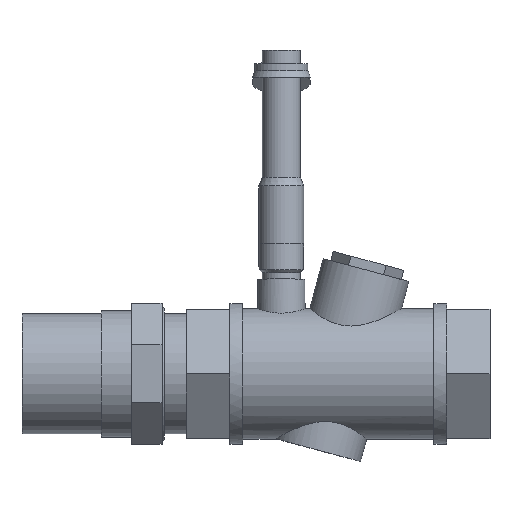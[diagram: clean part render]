
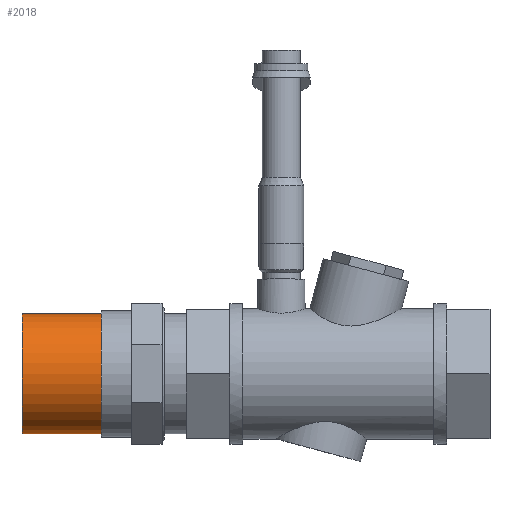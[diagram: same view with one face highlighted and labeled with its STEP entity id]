
A CAD part, top view. The second image highlights one B-rep face of the part: STEP entity #2018.
In plain terms, the highlighted cylindrical face has radius 24.13 mm (diameter 48.26 mm), a full revolution.
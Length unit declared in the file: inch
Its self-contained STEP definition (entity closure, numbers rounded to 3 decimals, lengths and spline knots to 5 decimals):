
#177=CYLINDRICAL_SURFACE('',#2262,0.95);
#276=FACE_OUTER_BOUND('',#398,.T.);
#398=EDGE_LOOP('',(#1717,#1718,#1719,#1720,#1721,#1722));
#514=CIRCLE('',#2254,0.95);
#515=CIRCLE('',#2255,0.95);
#520=CIRCLE('',#2263,0.95);
#521=CIRCLE('',#2264,0.95);
#640=LINE('',#3606,#777);
#777=VECTOR('',#2831,0.95);
#950=VERTEX_POINT('',#3587);
#951=VERTEX_POINT('',#3588);
#956=VERTEX_POINT('',#3603);
#957=VERTEX_POINT('',#3604);
#1209=EDGE_CURVE('',#950,#951,#514,.T.);
#1210=EDGE_CURVE('',#951,#950,#515,.T.);
#1216=EDGE_CURVE('',#956,#957,#520,.T.);
#1217=EDGE_CURVE('',#957,#951,#640,.T.);
#1218=EDGE_CURVE('',#957,#956,#521,.T.);
#1717=ORIENTED_EDGE('',*,*,#1216,.T.);
#1718=ORIENTED_EDGE('',*,*,#1217,.T.);
#1719=ORIENTED_EDGE('',*,*,#1210,.T.);
#1720=ORIENTED_EDGE('',*,*,#1209,.T.);
#1721=ORIENTED_EDGE('',*,*,#1217,.F.);
#1722=ORIENTED_EDGE('',*,*,#1218,.T.);
#2018=ADVANCED_FACE('',(#276),#177,.T.);
#2254=AXIS2_PLACEMENT_3D('',#3589,#2810,#2811);
#2255=AXIS2_PLACEMENT_3D('',#3590,#2812,#2813);
#2262=AXIS2_PLACEMENT_3D('',#3602,#2827,#2828);
#2263=AXIS2_PLACEMENT_3D('',#3605,#2829,#2830);
#2264=AXIS2_PLACEMENT_3D('',#3607,#2832,#2833);
#2810=DIRECTION('center_axis',(1.,0.,0.));
#2811=DIRECTION('ref_axis',(0.,0.,-1.));
#2812=DIRECTION('center_axis',(1.,0.,0.));
#2813=DIRECTION('ref_axis',(0.,0.,-1.));
#2827=DIRECTION('center_axis',(1.,0.,0.));
#2828=DIRECTION('ref_axis',(0.,1.,0.));
#2829=DIRECTION('center_axis',(-1.,0.,0.));
#2830=DIRECTION('ref_axis',(0.,1.,0.));
#2831=DIRECTION('',(-1.,0.,0.));
#2832=DIRECTION('center_axis',(-1.,0.,0.));
#2833=DIRECTION('ref_axis',(0.,1.,0.));
#3587=CARTESIAN_POINT('',(-5.,0.95,0.));
#3588=CARTESIAN_POINT('',(-5.,-0.95,0.));
#3589=CARTESIAN_POINT('Origin',(-5.,0.,0.));
#3590=CARTESIAN_POINT('Origin',(-5.,0.,0.));
#3602=CARTESIAN_POINT('Origin',(-3.35625,0.,0.));
#3603=CARTESIAN_POINT('',(-3.75,0.95,0.));
#3604=CARTESIAN_POINT('',(-3.75,-0.95,0.));
#3605=CARTESIAN_POINT('Origin',(-3.75,0.,0.));
#3606=CARTESIAN_POINT('',(-3.35625,-0.95,0.));
#3607=CARTESIAN_POINT('Origin',(-3.75,0.,0.));
